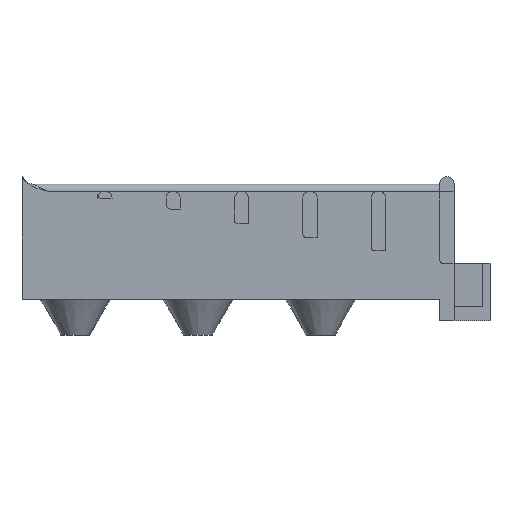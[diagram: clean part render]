
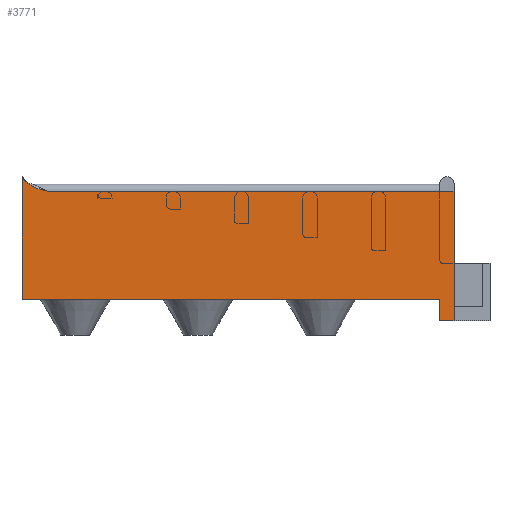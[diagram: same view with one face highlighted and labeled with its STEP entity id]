
A CAD part, left-side view. The second image highlights one B-rep face of the part: STEP entity #3771.
In plain terms, the highlighted planar face has unit normal (-1, 0, 0).
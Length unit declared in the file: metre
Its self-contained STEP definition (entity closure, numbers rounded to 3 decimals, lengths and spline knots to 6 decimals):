
#203=B_SPLINE_CURVE_WITH_KNOTS('',3,(#6643,#6644,#6645,#6646,#6647,#6648),
 .UNSPECIFIED.,.F.,.F.,(4,1,1,4),(0.,0.001656,
0.003312,0.006625),.UNSPECIFIED.);
#312=PLANE('',#4260);
#1178=ORIENTED_EDGE('',*,*,#2084,.F.);
#1179=ORIENTED_EDGE('',*,*,#1844,.T.);
#1180=ORIENTED_EDGE('',*,*,#2073,.T.);
#1181=ORIENTED_EDGE('',*,*,#2085,.T.);
#1182=ORIENTED_EDGE('',*,*,#1882,.T.);
#1183=ORIENTED_EDGE('',*,*,#2083,.F.);
#1184=ORIENTED_EDGE('',*,*,#1862,.F.);
#1185=ORIENTED_EDGE('',*,*,#1870,.T.);
#1186=ORIENTED_EDGE('',*,*,#1879,.F.);
#1844=EDGE_CURVE('',#2373,#2372,#2700,.T.);
#1862=EDGE_CURVE('',#2389,#2390,#2710,.T.);
#1870=EDGE_CURVE('',#2389,#2396,#2716,.T.);
#1879=EDGE_CURVE('',#2402,#2396,#2721,.T.);
#1882=EDGE_CURVE('',#2406,#2405,#2724,.T.);
#2073=EDGE_CURVE('',#2372,#2545,#2811,.T.);
#2083=EDGE_CURVE('',#2390,#2405,#2818,.T.);
#2084=EDGE_CURVE('',#2373,#2402,#2819,.T.);
#2085=EDGE_CURVE('',#2545,#2406,#203,.F.);
#2372=VERTEX_POINT('',#6033);
#2373=VERTEX_POINT('',#6035);
#2389=VERTEX_POINT('',#6078);
#2390=VERTEX_POINT('',#6080);
#2396=VERTEX_POINT('',#6094);
#2402=VERTEX_POINT('',#6124);
#2405=VERTEX_POINT('',#6131);
#2406=VERTEX_POINT('',#6133);
#2545=VERTEX_POINT('',#6618);
#2700=LINE('',#6034,#2955);
#2710=LINE('',#6079,#2965);
#2716=LINE('',#6095,#2971);
#2721=LINE('',#6125,#2976);
#2724=LINE('',#6132,#2979);
#2811=LINE('',#6619,#3066);
#2818=LINE('',#6640,#3073);
#2819=LINE('',#6642,#3074);
#2955=VECTOR('',#4791,1.);
#2965=VECTOR('',#4817,1.);
#2971=VECTOR('',#4829,1.);
#2976=VECTOR('',#4844,1.);
#2979=VECTOR('',#4849,1.);
#3066=VECTOR('',#5194,1.);
#3073=VECTOR('',#5215,1.);
#3074=VECTOR('',#5218,1.);
#3217=EDGE_LOOP('',(#1178,#1179,#1180,#1181,#1182,#1183,#1184,#1185,#1186));
#3462=FACE_BOUND('',#3217,.T.);
#3771=ADVANCED_FACE('',(#3462),#312,.T.);
#4260=AXIS2_PLACEMENT_3D('',#6641,#5216,#5217);
#4791=DIRECTION('',(0.,0.,1.));
#4817=DIRECTION('',(0.,1.,0.));
#4829=DIRECTION('',(0.,0.,-1.));
#4844=DIRECTION('',(0.,1.,0.));
#4849=DIRECTION('',(0.,0.621,0.784));
#5194=DIRECTION('',(0.,1.,0.));
#5215=DIRECTION('',(0.,0.,1.));
#5216=DIRECTION('',(-1.,0.,0.));
#5217=DIRECTION('',(0.,0.,1.));
#5218=DIRECTION('',(0.,0.,-1.));
#6033=CARTESIAN_POINT('',(-0.047684,-0.12,0.009735));
#6034=CARTESIAN_POINT('',(-0.047684,-0.12,-0.004299));
#6035=CARTESIAN_POINT('',(-0.047684,-0.12,-0.022333));
#6078=CARTESIAN_POINT('',(-0.047684,-0.116,-0.020333));
#6079=CARTESIAN_POINT('',(-0.047684,-0.12,-0.020333));
#6080=CARTESIAN_POINT('',(-0.047684,0.,-0.020333));
#6094=CARTESIAN_POINT('',(-0.047684,-0.116,-0.026333));
#6095=CARTESIAN_POINT('',(-0.047684,-0.116,-0.004299));
#6124=CARTESIAN_POINT('',(-0.047684,-0.12,-0.026333));
#6125=CARTESIAN_POINT('',(-0.047684,-0.12,-0.026333));
#6131=CARTESIAN_POINT('',(-0.047684,0.,0.013735));
#6132=CARTESIAN_POINT('',(-0.047684,-0.001947,0.01128));
#6133=CARTESIAN_POINT('',(-0.047684,-0.001052,0.012409));
#6618=CARTESIAN_POINT('',(-0.047684,-0.007001,0.009735));
#6619=CARTESIAN_POINT('',(-0.047684,-0.12,0.009735));
#6640=CARTESIAN_POINT('',(-0.047684,0.,-0.004299));
#6641=CARTESIAN_POINT('',(-0.047684,-0.12,-0.004299));
#6642=CARTESIAN_POINT('',(-0.047684,-0.12,-0.024333));
#6643=CARTESIAN_POINT('',(-0.047684,-0.001052,0.012409));
#6644=CARTESIAN_POINT('',(-0.047684,-0.0014,0.01197));
#6645=CARTESIAN_POINT('',(-0.047684,-0.002272,0.011263));
#6646=CARTESIAN_POINT('',(-0.047684,-0.004302,0.010387));
#6647=CARTESIAN_POINT('',(-0.047684,-0.00593,0.010001));
#6648=CARTESIAN_POINT('',(-0.047684,-0.007001,0.009735));
